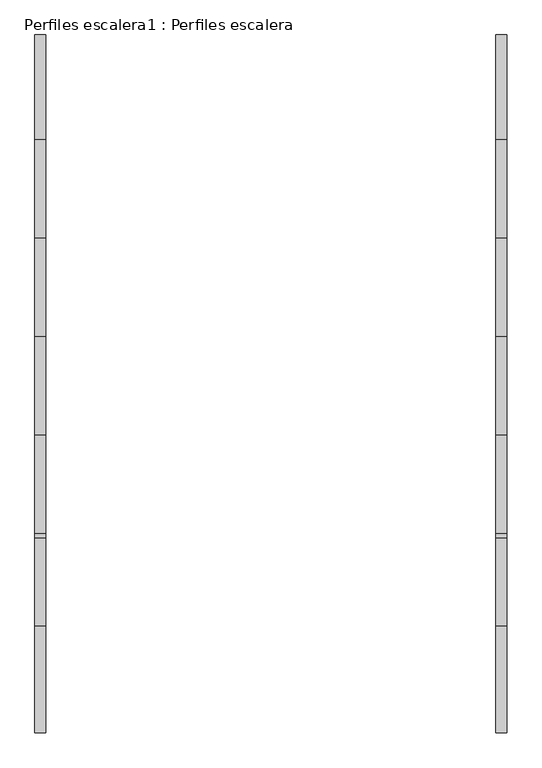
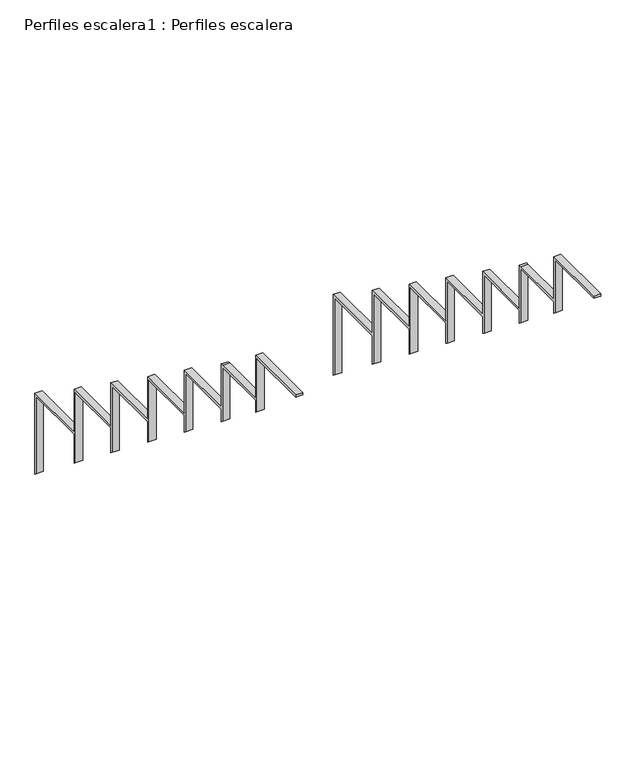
"""IFC4 building model written with IfcOpenShell, lengths in millimetres: beam geometry, Perfiles escalera1 : Perfiles escalera."""

from ifc_helpers import new_model, si_unit, frame, origin, place, context, project, spatial, polyline, outline, extrude, source, transform, mapped, element, save


def perfiles_escalera1_perfiles_escalera_c1f6a450(model_context):
    return source(origin(), model_context, "Body", "SweptSolid", [
        extrude(outline(polyline([(4844.6072273, 6430.7520238), (4834.6072273, 6438.8048351), (4834.6072273, 6780.0), (4560.321513, 6780.0), (4560.321513, 6652.2784564), (4550.321513, 6660.0012544), (4550.321513, 6970.0), (4293.1786559, 6970.0), (4293.1786559, 6860.1363983), (4283.1786559, 6867.8591963), (4283.1786559, 7160.0), (4026.0357987, 7160.0), (4026.0357987, 7069.2422458), (4016.0357987, 7076.9650438), (4016.0357987, 7350.0), (3758.8929416, 7350.0), (3758.8929416, 7275.5113378), (3748.8929416, 7283.2341358), (3748.8929416, 7540.0), (3491.7500845, 7540.0), (3491.7500845, 7483.3802104), (3481.7500845, 7491.4330217), (3481.7500845, 7730.0), (3241.7500845, 7730.0), (3241.7500845, 7678.1717074), (3231.7500845, 7686.2245186), (3231.7500845, 7920.0), (2951.7500845, 7920.0), (2951.7500845, 7930.0), (3241.7500845, 7930.0), (3241.7500845, 7740.0), (3481.7500845, 7740.0), (3491.7500845, 7740.0), (3491.7500845, 7550.0), (3758.8929416, 7550.0), (3758.8929416, 7360.0), (4026.0357987, 7360.0), (4026.0357987, 7170.0), (4293.1786559, 7170.0), (4293.1786559, 6980.0), (4560.321513, 6980.0), (4560.321513, 6790.0), (4844.6072273, 6790.0), (4844.6072273, 6430.7520238)])), frame((6318.8126262, 0.0, 0.0), z_axis=(1.0, 0.0, 0.0), x_axis=(0.0, 1.0, 0.0)), (0.0, 0.0, 1.0), 30.0),
        extrude(outline(polyline([(4844.6072273, 6430.7520238), (4834.6072273, 6438.8048351), (4834.6072273, 6780.0), (4560.321513, 6780.0), (4560.321513, 6652.2784564), (4550.321513, 6660.0012544), (4550.321513, 6970.0), (4293.1786559, 6970.0), (4293.1786559, 6860.1363983), (4283.1786559, 6867.8591963), (4283.1786559, 7160.0), (4026.0357987, 7160.0), (4026.0357987, 7069.2422458), (4016.0357987, 7076.9650438), (4016.0357987, 7350.0), (3758.8929416, 7350.0), (3758.8929416, 7275.5113378), (3748.8929416, 7283.2341358), (3748.8929416, 7540.0), (3491.7500845, 7540.0), (3491.7500845, 7483.3802104), (3481.7500845, 7491.4330217), (3481.7500845, 7730.0), (3241.7500845, 7730.0), (3241.7500845, 7678.1717074), (3231.7500845, 7686.2245186), (3231.7500845, 7920.0), (2951.7500845, 7920.0), (2951.7500845, 7930.0), (3241.7500845, 7930.0), (3241.7500845, 7740.0), (3481.7500845, 7740.0), (3491.7500845, 7740.0), (3491.7500845, 7550.0), (3758.8929416, 7550.0), (3758.8929416, 7360.0), (4026.0357987, 7360.0), (4026.0357987, 7170.0), (4293.1786559, 7170.0), (4293.1786559, 6980.0), (4560.321513, 6980.0), (4560.321513, 6790.0), (4844.6072273, 6790.0), (4844.6072273, 6430.7520238)])), frame((7569.5983807, 0.0, 0.0), z_axis=(1.0, 0.0, 0.0), x_axis=(0.0, 1.0, 0.0)), (0.0, 0.0, 1.0), 30.0),
    ])


if __name__ == "__main__":
    model = new_model("IFC4")
    model_context = context("Model", 3, world=origin())
    ifc_project = project(units=[si_unit("LENGTHUNIT", "METRE", prefix="MILLI")], contexts=[model_context])
    site = spatial("IfcSite", under=ifc_project)
    building = spatial("IfcBuilding", under=site)
    placement = place(None, origin())
    perfiles_escalera1_perfiles_escalera_shape = perfiles_escalera1_perfiles_escalera_c1f6a450(model_context)
    element("IfcBeam", 1, ObjectType="Perfiles escalera1 : Perfiles escalera", at=placement, inside=building, context=model_context, shape_type="MappedRepresentation", body=[
        mapped(perfiles_escalera1_perfiles_escalera_shape, transform((0.0, 0.0, 0.0), x_axis=(1.0, 0.0, 0.0), y_axis=(0.0, 1.0, 0.0), z_axis=(0.0, 0.0, 1.0))),
    ])
    save(model, "model.ifc")
